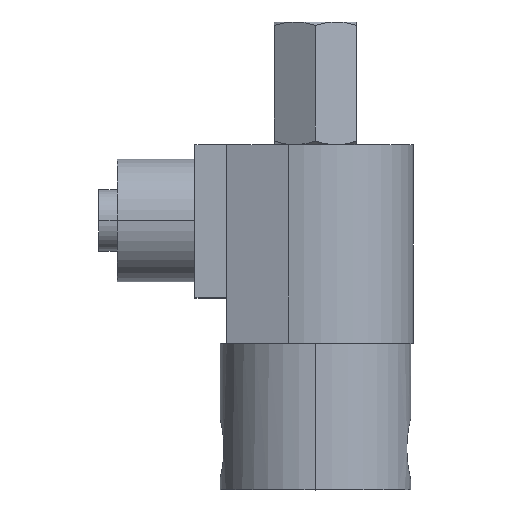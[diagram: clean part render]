
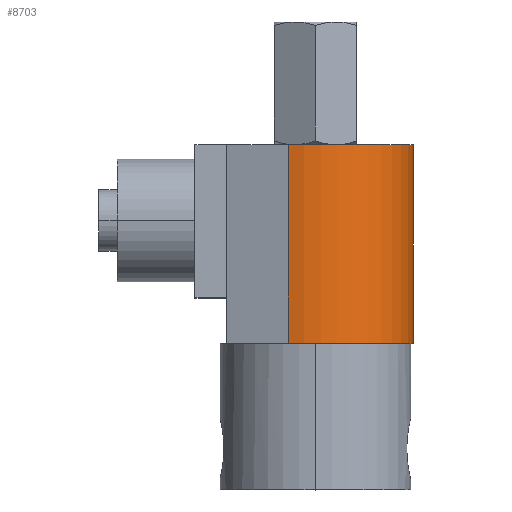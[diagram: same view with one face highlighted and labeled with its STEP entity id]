
A CAD part, top view. The second image highlights one B-rep face of the part: STEP entity #8703.
In plain terms, the highlighted cylindrical face has radius 20.32 mm (diameter 40.64 mm), a partial arc.
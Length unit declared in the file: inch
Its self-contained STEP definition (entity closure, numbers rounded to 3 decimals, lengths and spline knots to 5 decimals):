
#34 = CIRCLE ( 'NONE', #8929, 0.8 ) ;
#1314 = EDGE_CURVE ( 'Defeatured_0_30+Defeatured_0_29+Defeatured_0_27+Defeatured_0_32', #10774, #14037, #1627, .T. ) ;
#1400 = ORIENTED_EDGE ( 'NONE', *, *, #1314, .T. ) ;
#1462 = ORIENTED_EDGE ( 'NONE', *, *, #13515, .F. ) ;
#1627 = LINE ( 'NONE', #5973, #9324 ) ;
#1929 = DIRECTION ( 'NONE',  ( -1., 0., 0. ) ) ;
#1978 = CARTESIAN_POINT ( 'NONE',  ( -0.22081, 1.195, 0.76892 ) ) ;
#2255 = EDGE_LOOP ( 'NONE', ( #8551, #1462, #1400, #6508 ) ) ;
#2256 = CARTESIAN_POINT ( 'NONE',  ( 0.8, 2.815, 0. ) ) ;
#2317 = AXIS2_PLACEMENT_3D ( 'NONE', #9592, #13911, #1929 ) ;
#2578 = VECTOR ( 'NONE', #5330, 39.37008 ) ;
#2819 = CARTESIAN_POINT ( 'NONE',  ( 0., 2.815, 0. ) ) ;
#3450 = CIRCLE ( 'NONE', #2317, 0.8 ) ;
#5154 = CARTESIAN_POINT ( 'NONE',  ( 0.8, 1.195, 0. ) ) ;
#5304 = VERTEX_POINT ( 'NONE', #2256 ) ;
#5330 = DIRECTION ( 'NONE',  ( 0., -1., 0. ) ) ;
#5959 = CARTESIAN_POINT ( 'NONE',  ( 0., 2.815, 0. ) ) ;
#5973 = CARTESIAN_POINT ( 'NONE',  ( -0.22081, 2.815, 0.76892 ) ) ;
#6508 = ORIENTED_EDGE ( 'NONE', *, *, #9905, .T. ) ;
#7081 = DIRECTION ( 'NONE',  ( -1., 0., 0. ) ) ;
#7322 = LINE ( 'NONE', #10777, #2578 ) ;
#8349 = CARTESIAN_POINT ( 'NONE',  ( -0.22081, 2.815, 0.76892 ) ) ;
#8359 = DIRECTION ( 'NONE',  ( 0., 1., 0. ) ) ;
#8551 = ORIENTED_EDGE ( 'NONE', *, *, #12705, .F. ) ;
#8703 = ADVANCED_FACE ( 'Defeatured_0_30', ( #9878 ), #13126, .T. ) ;
#8929 = AXIS2_PLACEMENT_3D ( 'NONE', #2819, #8359, #7081 ) ;
#9054 = VERTEX_POINT ( 'NONE', #5154 ) ;
#9226 = DIRECTION ( 'NONE',  ( 0., -1., 0. ) ) ;
#9324 = VECTOR ( 'NONE', #9226, 39.37008 ) ;
#9592 = CARTESIAN_POINT ( 'NONE',  ( 0., 1.195, 0. ) ) ;
#9878 = FACE_OUTER_BOUND ( 'NONE', #2255, .T. ) ;
#9905 = EDGE_CURVE ( 'Defeatured_0_30+Defeatured_0_32+Defeatured_0_29+Defeatured_0_31', #14037, #9054, #3450, .T. ) ;
#10774 = VERTEX_POINT ( 'NONE', #8349 ) ;
#10777 = CARTESIAN_POINT ( 'NONE',  ( 0.8, 2.815, 0. ) ) ;
#10911 = AXIS2_PLACEMENT_3D ( 'NONE', #5959, #13519, #13210 ) ;
#12705 = EDGE_CURVE ( 'NONE', #5304, #9054, #7322, .T. ) ;
#13126 = CYLINDRICAL_SURFACE ( 'NONE', #10911, 0.8 ) ;
#13210 = DIRECTION ( 'NONE',  ( 1., 0., 0. ) ) ;
#13515 = EDGE_CURVE ( 'Defeatured_0_27+Defeatured_0_30+Defeatured_0_29+Defeatured_0_31', #10774, #5304, #34, .T. ) ;
#13519 = DIRECTION ( 'NONE',  ( 0., -1., 0. ) ) ;
#13911 = DIRECTION ( 'NONE',  ( 0., 1., 0. ) ) ;
#14037 = VERTEX_POINT ( 'NONE', #1978 ) ;
